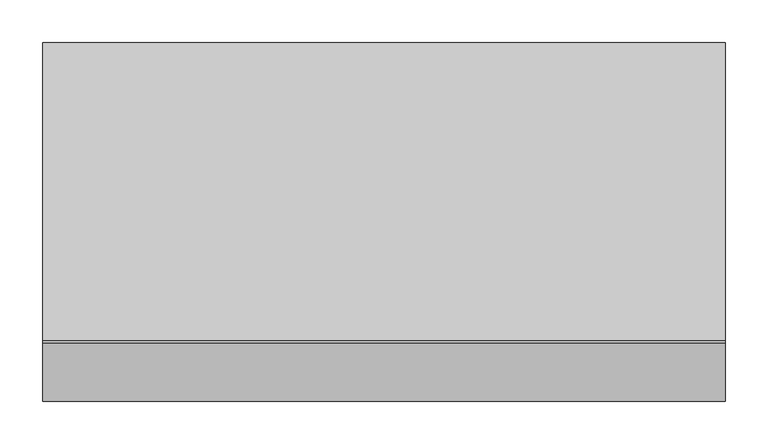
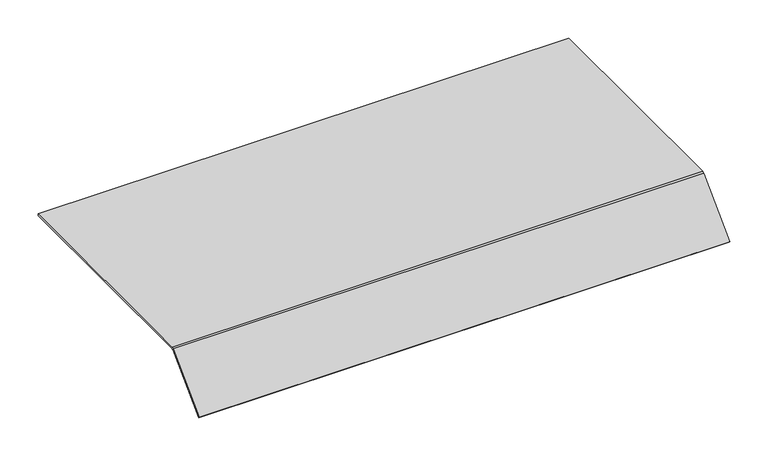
"""IFC4 building model written with IfcOpenShell, lengths in millimetres: proxy geometry, Electrical_Installation_Hager_Blank-Cover-800mm-Single-Sided-Height-70mm : Electrical_Installation_Hager_Blank-Cover-800mm-Single-Sided-Height-70mm."""

from ifc_helpers import new_model, si_unit, point, frame, frame_2d, origin, place, context, project, spatial, polyline, circle_curve, trimmed, segment, composite_curve, outline, extrude, source, transform, mapped, element, save


def electrical_fixtures_4e187bc7(model_context):
    return source(origin(), model_context, "Body", "SweptSolid", [
        extrude(outline(composite_curve([segment(polyline([(175.0, 40.5), (175.0, 37.5), (-174.8229541, 37.5)]), True, "CONTINUOUS"), segment(trimmed(circle_curve(frame_2d((-174.8229541, 36.0725733)), 1.4274267), [point((-174.8229541, 37.5))], [point((-175.8322972, 37.0819164))], True, "CARTESIAN"), True, "CONTINUOUS"), segment(polyline([(-175.8322972, 37.0819164), (-243.6627596, -30.7485461), (-245.78408, -28.6272257), (-177.8206472, 39.336207)]), True, "CONTINUOUS"), segment(trimmed(circle_curve(frame_2d((-175.0110025, 36.5265623)), 3.9734377), [point((-177.8206472, 39.336207))], [point((-175.0110025, 40.5))], False, "CARTESIAN"), True, "CONTINUOUS"), segment(polyline([(-175.0110025, 40.5), (175.0, 40.5)]), True, "CONTINUOUS")], self_intersect=False)), frame((0.0, 0.0, 0.0), z_axis=(1.0, 0.0, 0.0), x_axis=(0.0, 1.0, 0.0)), (0.0, 0.0, 1.0), 800.0),
    ])


if __name__ == "__main__":
    model = new_model("IFC4")
    model_context = context("Model", 3, world=origin())
    ifc_project = project(units=[si_unit("LENGTHUNIT", "METRE", prefix="MILLI")], contexts=[model_context])
    site = spatial("IfcSite", under=ifc_project)
    building = spatial("IfcBuilding", under=site)
    placement = place(None, origin())
    electrical_fixtures_shape = electrical_fixtures_4e187bc7(model_context)
    element("IfcBuildingElementProxy", 1, Name="Electrical_Installation_Hager_Blank-Cover-800mm-Single-Sided-Height-70mm : Electrical_Installation_Hager_Blank-Cover-800mm-Single-Sided-Height-70mm", ObjectType="Electrical_Installation_Hager_Blank-Cover-800mm-Single-Sided-Height-70mm : Electrical_Installation_Hager_Blank-Cover-800mm-Single-Sided-Height-70mm", at=placement, inside=building, context=model_context, shape_type="MappedRepresentation", body=[
        mapped(electrical_fixtures_shape, transform((0.0, 0.0, 0.0), x_axis=(1.0, 0.0, 0.0), y_axis=(0.0, 1.0, 0.0), z_axis=(0.0, 0.0, 1.0))),
    ])
    save(model, "model.ifc")
